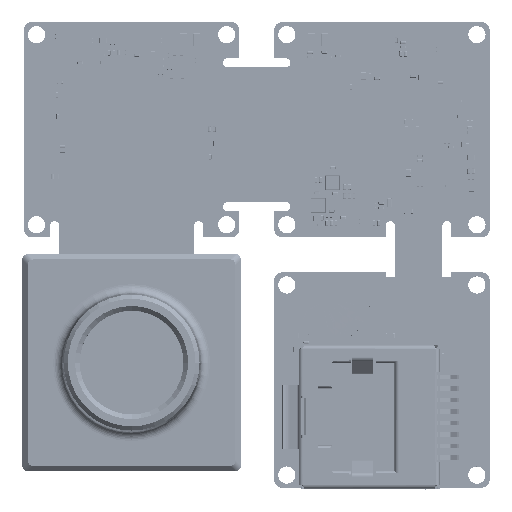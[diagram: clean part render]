
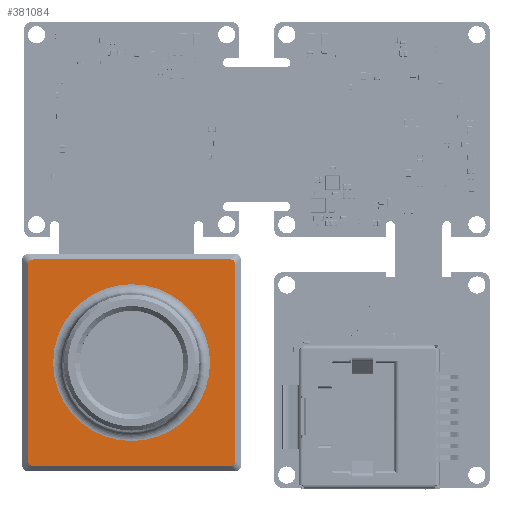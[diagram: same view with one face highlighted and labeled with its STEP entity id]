
A CAD part, top view. The second image highlights one B-rep face of the part: STEP entity #381084.
In plain terms, the highlighted planar face has unit normal (0, 0, 1).
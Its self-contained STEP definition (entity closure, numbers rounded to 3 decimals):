
#1736 = EDGE_CURVE ( 'NONE', #85543, #454961, #160028, .T. ) ;
#1899 =( BOUNDED_CURVE ( )  B_SPLINE_CURVE ( 3, ( #239213, #641155, #42469, #392082 ),
 .UNSPECIFIED., .F., .F. ) 
 B_SPLINE_CURVE_WITH_KNOTS ( ( 4, 4 ),
 ( 2.623, 3.675 ),
 .UNSPECIFIED. ) 
 CURVE ( )  GEOMETRIC_REPRESENTATION_ITEM ( )  RATIONAL_B_SPLINE_CURVE ( ( 1., 0.91, 0.91, 1. ) ) 
 REPRESENTATION_ITEM ( '' )  );
#7237 = CARTESIAN_POINT ( 'NONE',  ( 11.255, -11.4, 8. ) ) ;
#12912 = DIRECTION ( 'NONE',  ( 0., 1., 0. ) ) ;
#22349 = CARTESIAN_POINT ( 'NONE',  ( 8.666, 0., 8. ) ) ;
#36055 = CARTESIAN_POINT ( 'NONE',  ( 0., 0., 8. ) ) ;
#39817 = CARTESIAN_POINT ( 'NONE',  ( -11.475, -11.178, 8. ) ) ;
#42469 = CARTESIAN_POINT ( 'NONE',  ( -11.475, 11.178, 8. ) ) ;
#45116 = ORIENTED_EDGE ( 'NONE', *, *, #345298, .T. ) ;
#45481 = FACE_OUTER_BOUND ( 'NONE', #483721, .T. ) ;
#55245 = VERTEX_POINT ( 'NONE', #328186 ) ;
#57601 = CARTESIAN_POINT ( 'NONE',  ( 11.475, -11.178, 8. ) ) ;
#62218 = EDGE_CURVE ( 'NONE', #454961, #85543, #326871, .T. ) ;
#63261 = EDGE_CURVE ( 'NONE', #318443, #255025, #192382, .T. ) ;
#67561 = CARTESIAN_POINT ( 'NONE',  ( 11.475, 0., 8. ) ) ;
#85543 = VERTEX_POINT ( 'NONE', #150616 ) ;
#87193 = AXIS2_PLACEMENT_3D ( 'NONE', #36055, #241399, #287406 ) ;
#90950 = VECTOR ( 'NONE', #12912, 1000. ) ;
#99291 = VECTOR ( 'NONE', #102537, 1000. ) ;
#102537 = DIRECTION ( 'NONE',  ( 0., -1., 0. ) ) ;
#107683 = ORIENTED_EDGE ( 'NONE', *, *, #418263, .T. ) ;
#111405 = EDGE_CURVE ( 'NONE', #519687, #55245, #159979, .T. ) ;
#117029 = CARTESIAN_POINT ( 'NONE',  ( 0., 0., 8. ) ) ;
#119240 = CARTESIAN_POINT ( 'NONE',  ( -11.475, -10.794, 8. ) ) ;
#120973 = CARTESIAN_POINT ( 'NONE',  ( -10.874, -11.4, 8. ) ) ;
#147822 = ORIENTED_EDGE ( 'NONE', *, *, #62218, .T. ) ;
#150616 = CARTESIAN_POINT ( 'NONE',  ( -8.666, 0., 8. ) ) ;
#159979 = LINE ( 'NONE', #632199, #394463 ) ;
#160028 = CIRCLE ( 'NONE', #87193, 8.666 ) ;
#186178 = CARTESIAN_POINT ( 'NONE',  ( -11.475, -10.794, 8. ) ) ;
#192382 = LINE ( 'NONE', #67561, #90950 ) ;
#204850 = ORIENTED_EDGE ( 'NONE', *, *, #63261, .T. ) ;
#209162 = EDGE_CURVE ( 'NONE', #434847, #235316, #540070, .T. ) ;
#214313 = DIRECTION ( 'NONE',  ( 0., 0., -1. ) ) ;
#235316 = VERTEX_POINT ( 'NONE', #474336 ) ;
#239213 = CARTESIAN_POINT ( 'NONE',  ( -10.874, 11.4, 8. ) ) ;
#241399 = DIRECTION ( 'NONE',  ( 0., 0., -1. ) ) ;
#247022 = AXIS2_PLACEMENT_3D ( 'NONE', #117029, #464265, #414029 ) ;
#251271 = DIRECTION ( 'NONE',  ( 1., 0., 0. ) ) ;
#252823 = CARTESIAN_POINT ( 'NONE',  ( 11.255, 11.4, 8. ) ) ;
#255025 = VERTEX_POINT ( 'NONE', #437826 ) ;
#268655 = ORIENTED_EDGE ( 'NONE', *, *, #1736, .T. ) ;
#272310 = CARTESIAN_POINT ( 'NONE',  ( 10.874, 11.4, 8. ) ) ;
#286992 = DIRECTION ( 'NONE',  ( -1., 0., 0. ) ) ;
#287406 = DIRECTION ( 'NONE',  ( -1., 0., 0. ) ) ;
#304583 = CARTESIAN_POINT ( 'NONE',  ( 11.475, -10.794, 8. ) ) ;
#312704 = CARTESIAN_POINT ( 'NONE',  ( 0., 0., 8. ) ) ;
#318443 = VERTEX_POINT ( 'NONE', #443729 ) ;
#326871 = CIRCLE ( 'NONE', #247022, 8.666 ) ;
#328186 = CARTESIAN_POINT ( 'NONE',  ( -10.874, 11.4, 8. ) ) ;
#332754 = CARTESIAN_POINT ( 'NONE',  ( -10.874, -11.4, 8. ) ) ;
#345298 = EDGE_CURVE ( 'NONE', #255025, #519687, #630179, .T. ) ;
#349576 = CARTESIAN_POINT ( 'NONE',  ( 0., -11.4, 8. ) ) ;
#357468 = CARTESIAN_POINT ( 'NONE',  ( 10.874, 11.4, 8. ) ) ;
#358000 = CARTESIAN_POINT ( 'NONE',  ( -11.475, 0., 8. ) ) ;
#373641 = ORIENTED_EDGE ( 'NONE', *, *, #209162, .T. ) ;
#376684 = CARTESIAN_POINT ( 'NONE',  ( -11.475, 10.794, 8. ) ) ;
#381084 = ADVANCED_FACE ( 'NONE', ( #498753, #45481 ), #517878, .F. ) ;
#392082 = CARTESIAN_POINT ( 'NONE',  ( -11.475, 10.794, 8. ) ) ;
#394463 = VECTOR ( 'NONE', #286992, 1000. ) ;
#399631 = VECTOR ( 'NONE', #251271, 1000. ) ;
#403687 = EDGE_LOOP ( 'NONE', ( #268655, #147822 ) ) ;
#403882 = LINE ( 'NONE', #358000, #99291 ) ;
#409729 = VERTEX_POINT ( 'NONE', #119240 ) ;
#414029 = DIRECTION ( 'NONE',  ( -1., 0., 0. ) ) ;
#418263 = EDGE_CURVE ( 'NONE', #446214, #409729, #403882, .T. ) ;
#428061 = ORIENTED_EDGE ( 'NONE', *, *, #565347, .T. ) ;
#434847 = VERTEX_POINT ( 'NONE', #120973 ) ;
#437826 = CARTESIAN_POINT ( 'NONE',  ( 11.475, 10.794, 8. ) ) ;
#443729 = CARTESIAN_POINT ( 'NONE',  ( 11.475, -10.794, 8. ) ) ;
#446214 = VERTEX_POINT ( 'NONE', #376684 ) ;
#454961 = VERTEX_POINT ( 'NONE', #22349 ) ;
#457295 = CARTESIAN_POINT ( 'NONE',  ( 10.874, -11.4, 8. ) ) ;
#464265 = DIRECTION ( 'NONE',  ( 0., 0., -1. ) ) ;
#470601 = AXIS2_PLACEMENT_3D ( 'NONE', #312704, #214313, #568135 ) ;
#474336 = CARTESIAN_POINT ( 'NONE',  ( 10.874, -11.4, 8. ) ) ;
#483721 = EDGE_LOOP ( 'NONE', ( #373641, #594166, #204850, #45116, #555531, #646082, #107683, #428061 ) ) ;
#498753 = FACE_BOUND ( 'NONE', #403687, .T. ) ;
#501075 = EDGE_CURVE ( 'NONE', #235316, #318443, #511057, .T. ) ;
#506064 = CARTESIAN_POINT ( 'NONE',  ( 11.475, 11.178, 8. ) ) ;
#511057 =( BOUNDED_CURVE ( )  B_SPLINE_CURVE ( 3, ( #457295, #7237, #57601, #304583 ),
 .UNSPECIFIED., .F., .F. ) 
 B_SPLINE_CURVE_WITH_KNOTS ( ( 4, 4 ),
 ( 5.765, 6.817 ),
 .UNSPECIFIED. ) 
 CURVE ( )  GEOMETRIC_REPRESENTATION_ITEM ( )  RATIONAL_B_SPLINE_CURVE ( ( 1., 0.91, 0.91, 1. ) ) 
 REPRESENTATION_ITEM ( '' )  );
#517878 = PLANE ( 'NONE',  #470601 ) ;
#519687 = VERTEX_POINT ( 'NONE', #272310 ) ;
#533732 = EDGE_CURVE ( 'NONE', #55245, #446214, #1899, .T. ) ;
#540070 = LINE ( 'NONE', #349576, #399631 ) ;
#551954 = CARTESIAN_POINT ( 'NONE',  ( 11.475, 10.794, 8. ) ) ;
#555531 = ORIENTED_EDGE ( 'NONE', *, *, #111405, .T. ) ;
#563898 =( BOUNDED_CURVE ( )  B_SPLINE_CURVE ( 3, ( #186178, #39817, #632057, #332754 ),
 .UNSPECIFIED., .F., .F. ) 
 B_SPLINE_CURVE_WITH_KNOTS ( ( 4, 4 ),
 ( 2.608, 3.66 ),
 .UNSPECIFIED. ) 
 CURVE ( )  GEOMETRIC_REPRESENTATION_ITEM ( )  RATIONAL_B_SPLINE_CURVE ( ( 1., 0.91, 0.91, 1. ) ) 
 REPRESENTATION_ITEM ( '' )  );
#565347 = EDGE_CURVE ( 'NONE', #409729, #434847, #563898, .T. ) ;
#568135 = DIRECTION ( 'NONE',  ( -1., 0., 0. ) ) ;
#594166 = ORIENTED_EDGE ( 'NONE', *, *, #501075, .T. ) ;
#630179 =( BOUNDED_CURVE ( )  B_SPLINE_CURVE ( 3, ( #551954, #506064, #252823, #357468 ),
 .UNSPECIFIED., .F., .F. ) 
 B_SPLINE_CURVE_WITH_KNOTS ( ( 4, 4 ),
 ( 5.749, 6.802 ),
 .UNSPECIFIED. ) 
 CURVE ( )  GEOMETRIC_REPRESENTATION_ITEM ( )  RATIONAL_B_SPLINE_CURVE ( ( 1., 0.91, 0.91, 1. ) ) 
 REPRESENTATION_ITEM ( '' )  );
#632057 = CARTESIAN_POINT ( 'NONE',  ( -11.255, -11.4, 8. ) ) ;
#632199 = CARTESIAN_POINT ( 'NONE',  ( 0., 11.4, 8. ) ) ;
#641155 = CARTESIAN_POINT ( 'NONE',  ( -11.255, 11.4, 8. ) ) ;
#646082 = ORIENTED_EDGE ( 'NONE', *, *, #533732, .T. ) ;
